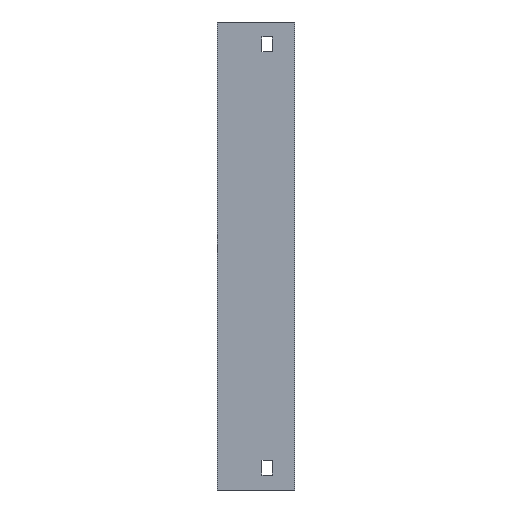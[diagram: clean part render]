
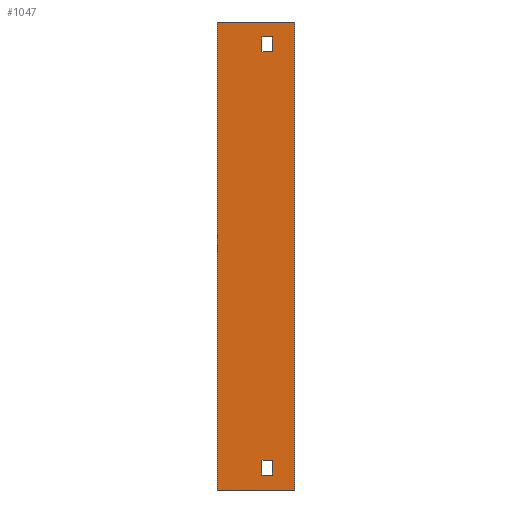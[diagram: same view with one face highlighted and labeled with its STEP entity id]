
A CAD part, left-side view. The second image highlights one B-rep face of the part: STEP entity #1047.
In plain terms, the highlighted planar face has unit normal (-1, 0, 0).
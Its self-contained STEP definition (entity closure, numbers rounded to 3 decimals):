
#4 = DIRECTION ( 'NONE',  ( 0., 1., 0. ) ) ;
#15 = CARTESIAN_POINT ( 'NONE',  ( -154., 0., 30. ) ) ;
#21 = VECTOR ( 'NONE', #1184, 1000. ) ;
#80 = CARTESIAN_POINT ( 'NONE',  ( -154., 22., 20. ) ) ;
#81 = EDGE_CURVE ( 'NONE', #1126, #1015, #1227, .T. ) ;
#98 = DIRECTION ( 'NONE',  ( 0., 0., 1. ) ) ;
#109 = CARTESIAN_POINT ( 'NONE',  ( -154., 0., -284. ) ) ;
#117 = EDGE_LOOP ( 'NONE', ( #436, #1854, #1641, #356 ) ) ;
#130 = LINE ( 'NONE', #728, #1124 ) ;
#174 = LINE ( 'NONE', #338, #1660 ) ;
#177 = DIRECTION ( 'NONE',  ( 0., 0., 1. ) ) ;
#198 = EDGE_CURVE ( 'NONE', #810, #1862, #746, .T. ) ;
#251 = ORIENTED_EDGE ( 'NONE', *, *, #286, .F. ) ;
#286 = EDGE_CURVE ( 'NONE', #1015, #530, #1062, .T. ) ;
#328 = VECTOR ( 'NONE', #1514, 1000. ) ;
#332 = DIRECTION ( 'NONE',  ( 1., 0., 0. ) ) ;
#338 = CARTESIAN_POINT ( 'NONE',  ( -154., 22., -264. ) ) ;
#356 = ORIENTED_EDGE ( 'NONE', *, *, #1733, .T. ) ;
#361 = VERTEX_POINT ( 'NONE', #496 ) ;
#368 = ORIENTED_EDGE ( 'NONE', *, *, #997, .T. ) ;
#407 = LINE ( 'NONE', #740, #1855 ) ;
#436 = ORIENTED_EDGE ( 'NONE', *, *, #1055, .T. ) ;
#441 = EDGE_CURVE ( 'NONE', #1746, #1859, #1666, .T. ) ;
#458 = CARTESIAN_POINT ( 'NONE',  ( -154., 22., 10. ) ) ;
#478 = PLANE ( 'NONE',  #1758 ) ;
#480 = ORIENTED_EDGE ( 'NONE', *, *, #198, .T. ) ;
#496 = CARTESIAN_POINT ( 'NONE',  ( -154., 15., 10. ) ) ;
#530 = VERTEX_POINT ( 'NONE', #1435 ) ;
#549 = ORIENTED_EDGE ( 'NONE', *, *, #1550, .T. ) ;
#590 = EDGE_CURVE ( 'NONE', #530, #1300, #407, .T. ) ;
#597 = VERTEX_POINT ( 'NONE', #109 ) ;
#626 = FACE_BOUND ( 'NONE', #775, .T. ) ;
#679 = CARTESIAN_POINT ( 'NONE',  ( -154., 52., 30. ) ) ;
#682 = DIRECTION ( 'NONE',  ( 0., 0., -1. ) ) ;
#728 = CARTESIAN_POINT ( 'NONE',  ( -154., 52., 30. ) ) ;
#731 = ORIENTED_EDGE ( 'NONE', *, *, #989, .F. ) ;
#740 = CARTESIAN_POINT ( 'NONE',  ( -154., 15., -274. ) ) ;
#741 = LINE ( 'NONE', #458, #1318 ) ;
#746 = LINE ( 'NONE', #1799, #21 ) ;
#775 = EDGE_LOOP ( 'NONE', ( #251, #1261, #731, #892 ) ) ;
#778 = DIRECTION ( 'NONE',  ( 0., 1., 0. ) ) ;
#786 = LINE ( 'NONE', #1221, #1620 ) ;
#810 = VERTEX_POINT ( 'NONE', #80 ) ;
#828 = CARTESIAN_POINT ( 'NONE',  ( -154., 15., 20. ) ) ;
#838 = CARTESIAN_POINT ( 'NONE',  ( -154., 15., 20. ) ) ;
#856 = LINE ( 'NONE', #1450, #1004 ) ;
#877 = CARTESIAN_POINT ( 'NONE',  ( -154., 22., 10. ) ) ;
#892 = ORIENTED_EDGE ( 'NONE', *, *, #590, .F. ) ;
#918 = VECTOR ( 'NONE', #1278, 1000. ) ;
#920 = CARTESIAN_POINT ( 'NONE',  ( -154., 22., -274. ) ) ;
#938 = DIRECTION ( 'NONE',  ( 0., 0., -1. ) ) ;
#957 = DIRECTION ( 'NONE',  ( 0., -1., 0. ) ) ;
#972 = CARTESIAN_POINT ( 'NONE',  ( -154., 22., -264. ) ) ;
#989 = EDGE_CURVE ( 'NONE', #1300, #1126, #174, .T. ) ;
#997 = EDGE_CURVE ( 'NONE', #361, #1258, #741, .T. ) ;
#1004 = VECTOR ( 'NONE', #1761, 1000. ) ;
#1015 = VERTEX_POINT ( 'NONE', #1793 ) ;
#1047 = ADVANCED_FACE ( 'NONE', ( #1672, #1519, #626 ), #478, .F. ) ;
#1055 = EDGE_CURVE ( 'NONE', #597, #1486, #1240, .T. ) ;
#1062 = LINE ( 'NONE', #1656, #328 ) ;
#1078 = CARTESIAN_POINT ( 'NONE',  ( -154., 52., -284. ) ) ;
#1094 = CARTESIAN_POINT ( 'NONE',  ( -154., 0., -284. ) ) ;
#1124 = VECTOR ( 'NONE', #1825, 1000. ) ;
#1126 = VERTEX_POINT ( 'NONE', #972 ) ;
#1160 = EDGE_LOOP ( 'NONE', ( #1783, #480, #549, #368 ) ) ;
#1184 = DIRECTION ( 'NONE',  ( 0., -1., 0. ) ) ;
#1221 = CARTESIAN_POINT ( 'NONE',  ( -154., 52., -284. ) ) ;
#1227 = LINE ( 'NONE', #920, #1719 ) ;
#1240 = LINE ( 'NONE', #1094, #918 ) ;
#1258 = VERTEX_POINT ( 'NONE', #877 ) ;
#1261 = ORIENTED_EDGE ( 'NONE', *, *, #81, .F. ) ;
#1278 = DIRECTION ( 'NONE',  ( 0., 0., 1. ) ) ;
#1299 = EDGE_CURVE ( 'NONE', #1258, #810, #856, .T. ) ;
#1300 = VERTEX_POINT ( 'NONE', #1622 ) ;
#1318 = VECTOR ( 'NONE', #4, 1000. ) ;
#1435 = CARTESIAN_POINT ( 'NONE',  ( -154., 15., -274. ) ) ;
#1440 = VECTOR ( 'NONE', #682, 1000. ) ;
#1450 = CARTESIAN_POINT ( 'NONE',  ( -154., 22., 20. ) ) ;
#1486 = VERTEX_POINT ( 'NONE', #15 ) ;
#1514 = DIRECTION ( 'NONE',  ( 0., -1., 0. ) ) ;
#1519 = FACE_BOUND ( 'NONE', #1160, .T. ) ;
#1522 = CARTESIAN_POINT ( 'NONE',  ( -154., 52., -284. ) ) ;
#1525 = CARTESIAN_POINT ( 'NONE',  ( -154., 52., -284. ) ) ;
#1550 = EDGE_CURVE ( 'NONE', #1862, #361, #1551, .T. ) ;
#1551 = LINE ( 'NONE', #838, #1440 ) ;
#1620 = VECTOR ( 'NONE', #957, 1000. ) ;
#1622 = CARTESIAN_POINT ( 'NONE',  ( -154., 15., -264. ) ) ;
#1636 = VECTOR ( 'NONE', #177, 1000. ) ;
#1641 = ORIENTED_EDGE ( 'NONE', *, *, #441, .F. ) ;
#1656 = CARTESIAN_POINT ( 'NONE',  ( -154., 22., -274. ) ) ;
#1660 = VECTOR ( 'NONE', #778, 1000. ) ;
#1666 = LINE ( 'NONE', #1522, #1636 ) ;
#1672 = FACE_OUTER_BOUND ( 'NONE', #117, .T. ) ;
#1719 = VECTOR ( 'NONE', #1787, 1000. ) ;
#1721 = EDGE_CURVE ( 'NONE', #1859, #1486, #130, .T. ) ;
#1733 = EDGE_CURVE ( 'NONE', #1746, #597, #786, .T. ) ;
#1746 = VERTEX_POINT ( 'NONE', #1525 ) ;
#1758 = AXIS2_PLACEMENT_3D ( 'NONE', #1078, #332, #938 ) ;
#1761 = DIRECTION ( 'NONE',  ( 0., 0., 1. ) ) ;
#1783 = ORIENTED_EDGE ( 'NONE', *, *, #1299, .T. ) ;
#1787 = DIRECTION ( 'NONE',  ( 0., 0., -1. ) ) ;
#1793 = CARTESIAN_POINT ( 'NONE',  ( -154., 22., -274. ) ) ;
#1799 = CARTESIAN_POINT ( 'NONE',  ( -154., 22., 20. ) ) ;
#1825 = DIRECTION ( 'NONE',  ( 0., -1., 0. ) ) ;
#1854 = ORIENTED_EDGE ( 'NONE', *, *, #1721, .F. ) ;
#1855 = VECTOR ( 'NONE', #98, 1000. ) ;
#1859 = VERTEX_POINT ( 'NONE', #679 ) ;
#1862 = VERTEX_POINT ( 'NONE', #828 ) ;
